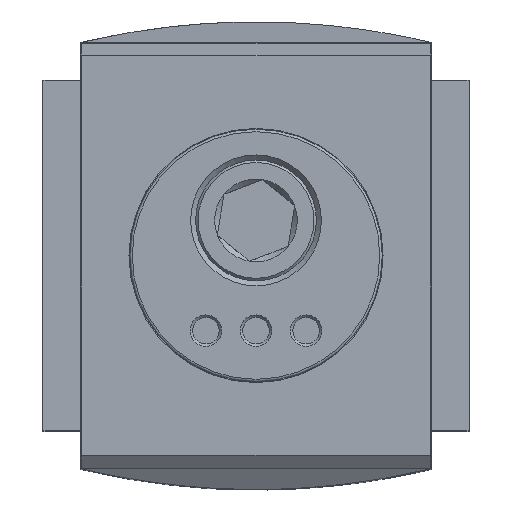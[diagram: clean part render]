
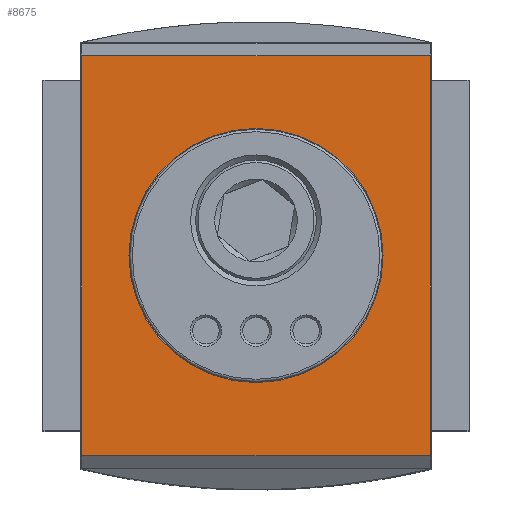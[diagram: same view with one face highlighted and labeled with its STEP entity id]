
A CAD part, top view. The second image highlights one B-rep face of the part: STEP entity #8675.
In plain terms, the highlighted planar face has unit normal (0, 0, 1).
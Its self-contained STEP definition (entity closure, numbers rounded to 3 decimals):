
#8445=CARTESIAN_POINT('',(34.8,-39.812,58.));
#8446=VERTEX_POINT('',#8445);
#8454=CARTESIAN_POINT('',(-34.8,-39.812,58.));
#8455=VERTEX_POINT('',#8454);
#8456=CARTESIAN_POINT('',(34.8,-39.812,58.));
#8457=DIRECTION('',(-1.0,0.0,0.0));
#8458=VECTOR('',#8457,69.6);
#8459=LINE('',#8456,#8458);
#8460=EDGE_CURVE('',#8446,#8455,#8459,.T.);
#8494=CARTESIAN_POINT('',(-34.8,39.812,58.));
#8495=VERTEX_POINT('',#8494);
#8496=CARTESIAN_POINT('',(-34.8,-39.812,58.));
#8497=DIRECTION('',(0.0,1.0,0.0));
#8498=VECTOR('',#8497,79.624);
#8499=LINE('',#8496,#8498);
#8500=EDGE_CURVE('',#8455,#8495,#8499,.T.);
#8532=CARTESIAN_POINT('',(34.8,39.812,58.));
#8533=VERTEX_POINT('',#8532);
#8534=CARTESIAN_POINT('',(-34.8,39.812,58.));
#8535=DIRECTION('',(1.0,0.0,0.0));
#8536=VECTOR('',#8535,69.6);
#8537=LINE('',#8534,#8536);
#8538=EDGE_CURVE('',#8495,#8533,#8537,.T.);
#8580=CARTESIAN_POINT('',(34.8,39.812,58.));
#8581=DIRECTION('',(0.0,-1.0,0.0));
#8582=VECTOR('',#8581,79.624);
#8583=LINE('',#8580,#8582);
#8584=EDGE_CURVE('',#8533,#8446,#8583,.T.);
#8653=CARTESIAN_POINT('',(0.,0.,58.));
#8654=DIRECTION('',(0.0,0.0,1.0));
#8655=DIRECTION('',(-1.0,0.0,0.0));
#8656=AXIS2_PLACEMENT_3D('',#8653,#8654,#8655);
#8657=PLANE('',#8656);
#8658=ORIENTED_EDGE('',*,*,#8460,.F.);
#8659=ORIENTED_EDGE('',*,*,#8584,.F.);
#8660=ORIENTED_EDGE('',*,*,#8538,.F.);
#8661=ORIENTED_EDGE('',*,*,#8500,.F.);
#8662=EDGE_LOOP('',(#8658,#8659,#8660,#8661));
#8663=FACE_OUTER_BOUND('',#8662,.T.);
#8664=CARTESIAN_POINT('',(-25.35,0.,58.0));
#8665=VERTEX_POINT('',#8664);
#8666=CARTESIAN_POINT('',(0.,0.,58.0));
#8667=DIRECTION('',(0.0,0.0,-1.0));
#8668=DIRECTION('',(1.0,0.0,0.0));
#8669=AXIS2_PLACEMENT_3D('',#8666,#8667,#8668);
#8670=CIRCLE('',#8669,25.35);
#8671=EDGE_CURVE('',#8665,#8665,#8670,.T.);
#8672=ORIENTED_EDGE('',*,*,#8671,.T.);
#8673=EDGE_LOOP('',(#8672));
#8674=FACE_BOUND('',#8673,.T.);
#8675=ADVANCED_FACE('',(#8663,#8674),#8657,.T.);
